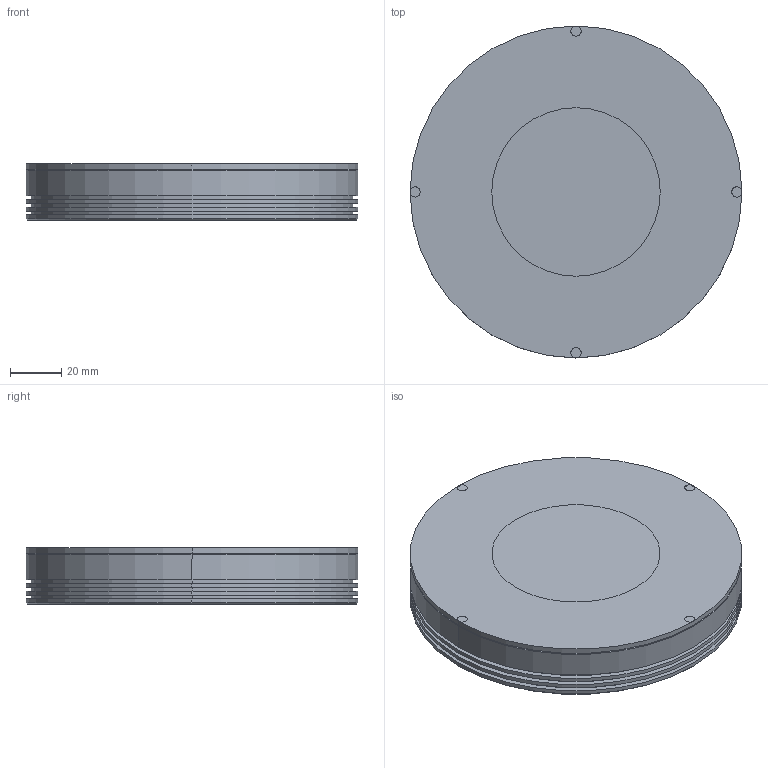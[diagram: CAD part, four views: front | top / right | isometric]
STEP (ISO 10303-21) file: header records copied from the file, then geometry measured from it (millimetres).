
FILE_DESCRIPTION((''),'2;1');
FILE_NAME('TRL-140-0','2020-03-28T',('ASUS'),(''),'PRO/ENGINEER BY PARAMETRIC TECHNOLOGY CORPORATION, 2008380','PRO/ENGINEER BY PARAMETRIC TECHNOLOGY CORPORATION, 2008380','');
FILE_SCHEMA(('CONFIG_CONTROL_DESIGN'));
Length unit declared in the file: millimetre
Products named in the file (1): TRL-140-0
Bounding box: 130 x 130 x 22 mm (x, y, z)
Volume: 108909.4 mm3; surface area: 64983.5 mm2
Topology: 2 solids, 5 shells, 76 faces, 148 edges, 91 vertices
Faces by surface type: cylinder 38, plane 24, cone 14
Entity records: 1966 total; most frequent: DIRECTION 374, CARTESIAN_POINT 345, ORIENTED_EDGE 292, AXIS2_PLACEMENT_3D 161, EDGE_CURVE 146, VERTEX_POINT 90, CIRCLE 90, EDGE_LOOP 86
